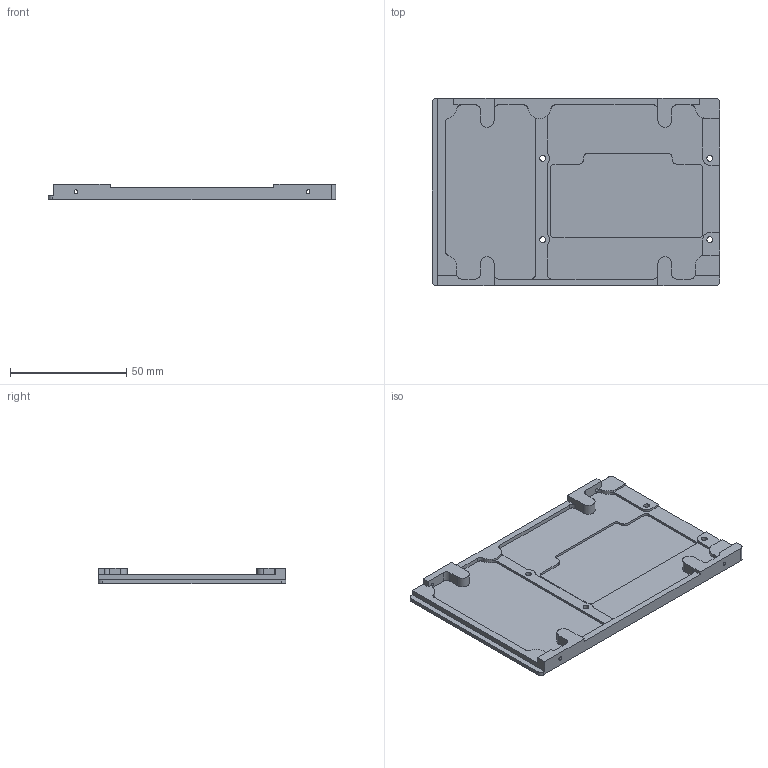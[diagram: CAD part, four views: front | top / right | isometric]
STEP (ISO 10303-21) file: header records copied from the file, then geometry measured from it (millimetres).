
FILE_DESCRIPTION(/* description */ ('STEP AP242','CAx-IF Rec.Pracs.---Representation and Presentation of Product Manufacturing Information (PMI)---4.0---2014-10-13','CAx-IF Rec.Pracs.---3D Tessellated Geometry---0.4---2014-09-14','2;1'),/* implementation_level */ '2;1');
FILE_NAME(/* name */ '65a8ea26dbe28b327144b762',/* time_stamp */ '2024-01-18T09:06:46Z',/* author */ (''),/* organization */ (''),/* preprocessor_version */ 'ST-DEVELOPER v19.4',/* originating_system */ ' ',/* authorisation */ ' ');
FILE_SCHEMA (('AP242_MANAGED_MODEL_BASED_3D_ENGINEERING_MIM_LF { 1 0 10303 442 1 1 4 }'));
Length unit declared in the file: metre
Products named in the file (1): µ×°å
Bounding box: 123.7 x 80.7 x 6.6 mm (x, y, z)
Volume: 22176.8 mm3; surface area: 23719.3 mm2
Topology: 1 solids, 1 shells, 129 faces, 385 edges, 259 vertices
Faces by surface type: plane 66, cylinder 63
Full cylindrical faces by diameter (mm): 1.6 x4, 2.5 x4, 3.3 x4
Entity records: 4336 total; most frequent: CARTESIAN_POINT 787, DIRECTION 750, ORIENTED_EDGE 730, EDGE_CURVE 365, AXIS2_PLACEMENT_3D 262, VERTEX_POINT 251, LINE 226, VECTOR 226
